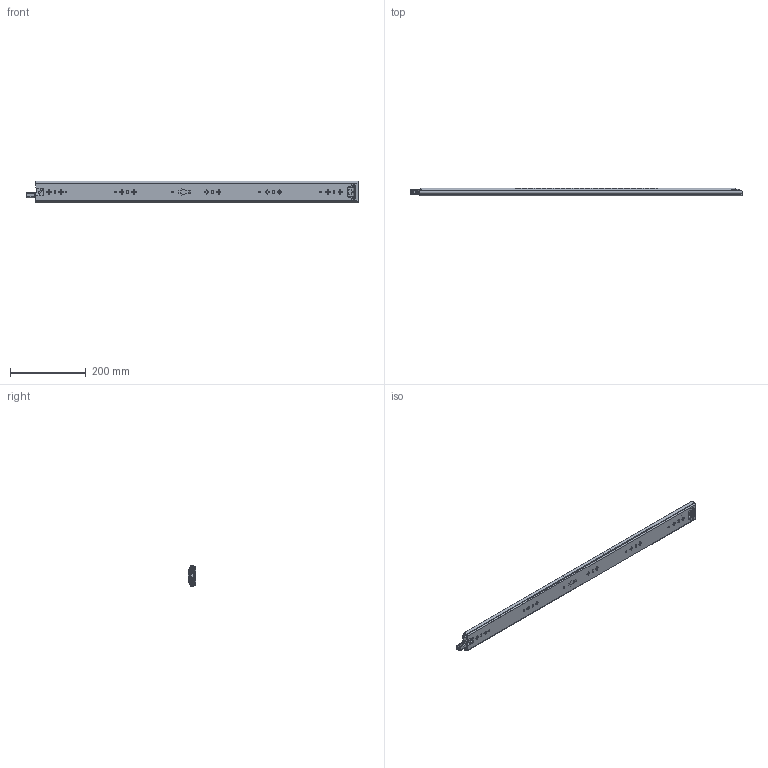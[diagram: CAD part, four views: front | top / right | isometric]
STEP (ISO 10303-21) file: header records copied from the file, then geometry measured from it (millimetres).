
FILE_DESCRIPTION((''),'2;1');
FILE_NAME('KP-57-01ZUZHUANGTU-34_ASM','2022-08-17T',('jishu015'),(''),'PRO/ENGINEER BY PARAMETRIC TECHNOLOGY CORPORATION, 2010280','PRO/ENGINEER BY PARAMETRIC TECHNOLOGY CORPORATION, 2010280','');
FILE_SCHEMA(('CONFIG_CONTROL_DESIGN'));
Products named in the file (22): KP-57-01WEIKE-18_________; 1057WEIJIAO_________; WAIKE________ASM; KP-57-01ZHONGGUI-18_________; ZHONGGUIPEIJIAN-11_______; ZHONGGUISUOKOU-11_______; KP-57-01ZHONGGUI-18__________ASM; 1057XIAOZHUJIA_________; 1057-5-6GANZHU_________; 1057XIAOZHUJIA-14GE__________ASM; KP-57-01NEIGUI-18_________; PJ-57-08_______; DIAOPIAN-11_______; 50XINSUOKOU-1_______; TANHUANG_______; 1053-3SBANJI122_____; JIAO11_____; KP-57-01NEIGUI-18__________ASM; 1053ZHUTIAO-175_____________; 53-5-6GANZHU_____________; 1053ZHUTIAO-175MM________ASM; KP-57-01ZUZHUANGTU-34_ASM
Assembly tree (95 placements, depth 3):
  KP-57-01ZUZHUANGTU-34_ASM
    WAIKE________ASM
      KP-57-01WEIKE-18_________
      1057WEIJIAO_________
    KP-57-01ZHONGGUI-18__________ASM
      KP-57-01ZHONGGUI-18_________
      ZHONGGUIPEIJIAN-11_______
      ZHONGGUISUOKOU-11_______
    1057XIAOZHUJIA-14GE__________ASM
      1057XIAOZHUJIA_________
      1057-5-6GANZHU_________  x60
    KP-57-01NEIGUI-18__________ASM
      KP-57-01NEIGUI-18_________
      PJ-57-08_______
      DIAOPIAN-11_______
      50XINSUOKOU-1_______
      TANHUANG_______
      1053-3SBANJI122_____
      JIAO11_____
    1053ZHUTIAO-175MM________ASM  x2
      1053ZHUTIAO-175_____________
      53-5-6GANZHU_____________
Bounding box: 875.42 x 19 x 57.67 mm (x, y, z)
Volume: 371924.6 mm3; surface area: 405792.9 mm2
Topology: 108 solids, 108 shells, 2694 faces, 7771 edges, 4850 vertices
Faces by surface type: cylinder 1167, plane 1082, sphere 191, bspline 122, cone 84, torus 25, extrusion 23
Entity records: 86953 total; most frequent: CARTESIAN_POINT 21492, ORIENTED_EDGE 13862, DIRECTION 13480, EDGE_CURVE 6931, AXIS2_PLACEMENT_3D 4665, VERTEX_POINT 4478, VECTOR 4150, LINE 4127
